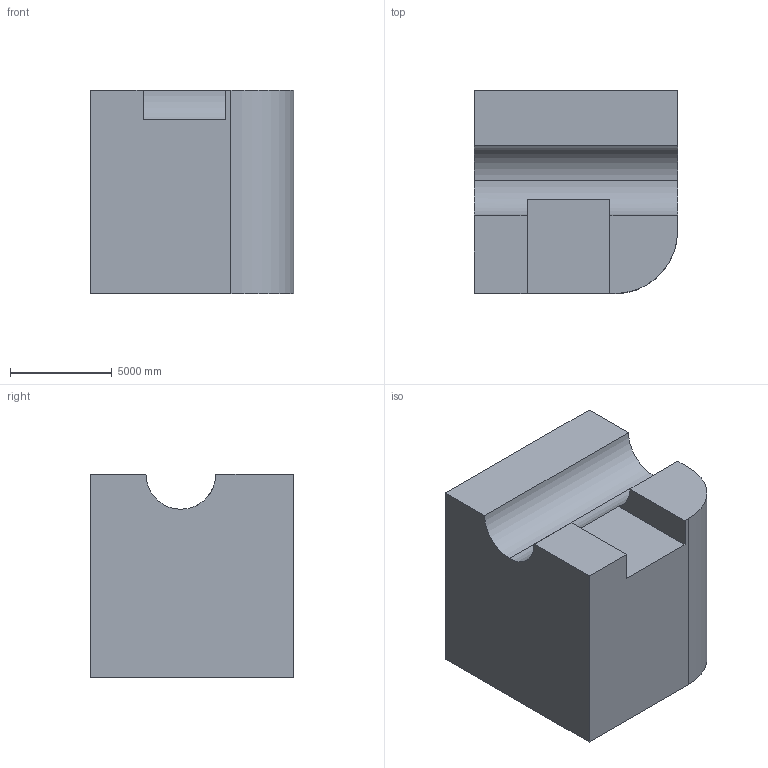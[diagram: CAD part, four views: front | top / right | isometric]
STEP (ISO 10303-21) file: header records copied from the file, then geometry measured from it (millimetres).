
FILE_DESCRIPTION (( 'STEP AP203' ), '1' );
FILE_NAME ('1310.STEP', '2022-08-18T13:41:34', ( 'user' ), ( '' ), 'SwSTEP 2.0', 'SolidWorks 2021', '' );
FILE_SCHEMA (( 'CONFIG_CONTROL_DESIGN' ));
Length unit declared in the file: centimetre
Products named in the file (1): 1310
Bounding box: 10000 x 10000 x 10000 mm (x, y, z)
Volume: 886558243037.5 mm3; surface area: 620205480.2 mm2
Topology: 1 solids, 1 shells, 18 faces, 48 edges, 32 vertices
Faces by surface type: plane 15, cylinder 3
Entity records: 637 total; most frequent: CARTESIAN_POINT 99, ORIENTED_EDGE 96, DIRECTION 94, EDGE_CURVE 48, VECTOR 40, LINE 40, VERTEX_POINT 32, AXIS2_PLACEMENT_3D 27
